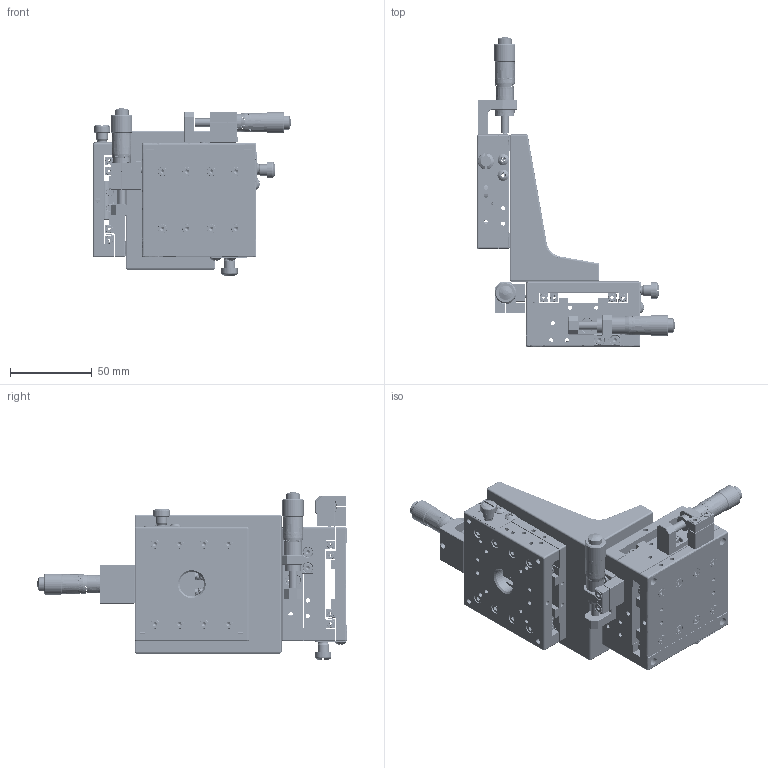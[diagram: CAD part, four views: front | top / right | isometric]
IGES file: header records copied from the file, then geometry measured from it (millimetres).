
Start section: SolidWorks IGES file using analytic representation for surfaces
Bounding box: 121.25 x 189.7 x 102.55 mm (x, y, z)
Surface area: 120168.1 mm2 (no closed solid volume)
Topology: 0 solids, 0 shells, 1929 faces, 36163 edges, 36055 vertices
Faces by surface type: bspline 1152, revolution 777
